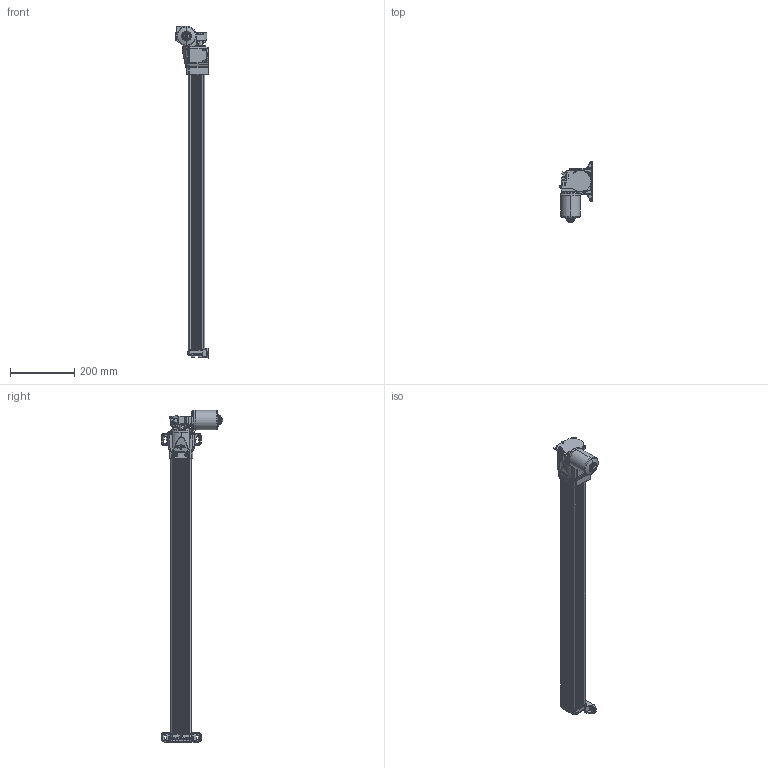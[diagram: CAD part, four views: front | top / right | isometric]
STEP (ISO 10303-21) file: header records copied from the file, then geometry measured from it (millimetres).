
FILE_DESCRIPTION (( 'STEP AP203' ), '1' );
FILE_NAME ('QXY39 Motor.STEP', '2014-01-22T21:00:39', ( '' ), ( '' ), 'SwSTEP 2.0', 'SolidWorks 2013', '' );
FILE_SCHEMA (( 'CONFIG_CONTROL_DESIGN' ));
Length unit declared in the file: millimetre
Products named in the file (1): QXY39 Motor
Bounding box: 102.7 x 193.55 x 1036.97 mm (x, y, z)
Volume: 1157188.7 mm3; surface area: 617572.2 mm2
Topology: 31 solids, 31 shells, 5080 faces, 12348 edges, 7414 vertices
Faces by surface type: cylinder 1634, plane 1152, torus 922, cone 683, bspline 616, sphere 73
Entity records: 168499 total; most frequent: CARTESIAN_POINT 52313, DIRECTION 25066, ORIENTED_EDGE 24506, EDGE_CURVE 12253, AXIS2_PLACEMENT_3D 10276, VERTEX_POINT 7410, CIRCLE 5811, EDGE_LOOP 5341
